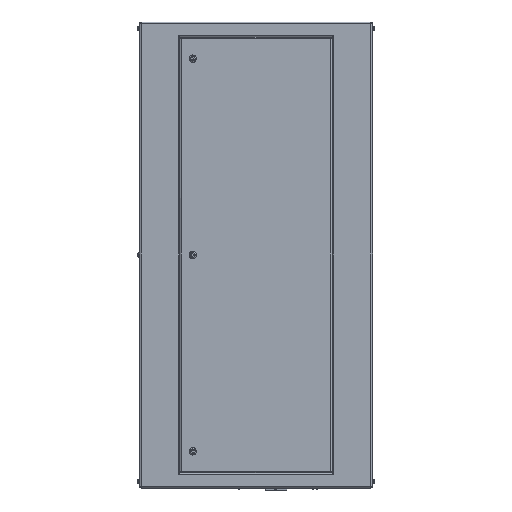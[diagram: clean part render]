
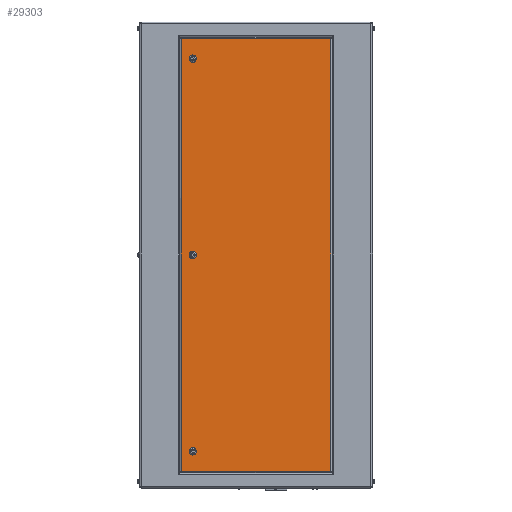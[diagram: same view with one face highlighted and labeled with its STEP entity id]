
A CAD part, left-side view. The second image highlights one B-rep face of the part: STEP entity #29303.
In plain terms, the highlighted planar face has unit normal (-1, 0, 0).
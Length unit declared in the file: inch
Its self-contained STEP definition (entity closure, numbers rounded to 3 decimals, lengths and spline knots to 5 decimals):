
#382 = CIRCLE ( 'NONE', #33704, 0.55 ) ;
#427 = FACE_BOUND ( 'NONE', #19997, .T. ) ;
#569 = CARTESIAN_POINT ( 'NONE',  ( -18.5, 9.5, -28.95 ) ) ;
#573 = DIRECTION ( 'NONE',  ( 1., 0., 0. ) ) ;
#636 = EDGE_CURVE ( 'NONE', #9458, #20902, #4748, .T. ) ;
#978 = DIRECTION ( 'NONE',  ( 0., 0., -1. ) ) ;
#2189 = VERTEX_POINT ( 'NONE', #31323 ) ;
#3245 = FACE_BOUND ( 'NONE', #18630, .T. ) ;
#3290 = CARTESIAN_POINT ( 'NONE',  ( -18.5, 9.5, -0.55 ) ) ;
#3509 = ORIENTED_EDGE ( 'NONE', *, *, #27293, .T. ) ;
#3842 = EDGE_CURVE ( 'NONE', #18754, #11351, #382, .T. ) ;
#4140 = LINE ( 'NONE', #16089, #13037 ) ;
#4211 = CIRCLE ( 'NONE', #10286, 0.55 ) ;
#4299 = CARTESIAN_POINT ( 'NONE',  ( -18.5, 9.5, -30.05 ) ) ;
#4657 = DIRECTION ( 'NONE',  ( 0., 0., -1. ) ) ;
#4748 = LINE ( 'NONE', #36641, #37502 ) ;
#5160 = ORIENTED_EDGE ( 'NONE', *, *, #29507, .T. ) ;
#5450 = EDGE_CURVE ( 'NONE', #9517, #7246, #11499, .T. ) ;
#5730 = AXIS2_PLACEMENT_3D ( 'NONE', #21107, #32687, #4657 ) ;
#6291 = LINE ( 'NONE', #17146, #34287 ) ;
#6294 = CARTESIAN_POINT ( 'NONE',  ( -18.5, 9.5, 30.05 ) ) ;
#7029 = DIRECTION ( 'NONE',  ( 0., 1., 0. ) ) ;
#7246 = VERTEX_POINT ( 'NONE', #4299 ) ;
#7832 = EDGE_LOOP ( 'NONE', ( #12294, #12805 ) ) ;
#8085 = EDGE_CURVE ( 'NONE', #14565, #2189, #21861, .T. ) ;
#8433 = EDGE_CURVE ( 'NONE', #2189, #9458, #4140, .T. ) ;
#8613 = DIRECTION ( 'NONE',  ( 0., 0., 1. ) ) ;
#9436 = AXIS2_PLACEMENT_3D ( 'NONE', #18507, #30896, #36547 ) ;
#9458 = VERTEX_POINT ( 'NONE', #22404 ) ;
#9517 = VERTEX_POINT ( 'NONE', #569 ) ;
#10286 = AXIS2_PLACEMENT_3D ( 'NONE', #21469, #18232, #24143 ) ;
#10681 = VECTOR ( 'NONE', #7029, 39.37008 ) ;
#11351 = VERTEX_POINT ( 'NONE', #3290 ) ;
#11499 = CIRCLE ( 'NONE', #27250, 0.55 ) ;
#11989 = PLANE ( 'NONE',  #5730 ) ;
#12294 = ORIENTED_EDGE ( 'NONE', *, *, #16367, .T. ) ;
#12519 = DIRECTION ( 'NONE',  ( 0., 0., -1. ) ) ;
#12745 = DIRECTION ( 'NONE',  ( 1., 0., 0. ) ) ;
#12805 = ORIENTED_EDGE ( 'NONE', *, *, #3842, .T. ) ;
#13037 = VECTOR ( 'NONE', #12519, 39.37008 ) ;
#13671 = DIRECTION ( 'NONE',  ( 0., 0., -1. ) ) ;
#14565 = VERTEX_POINT ( 'NONE', #18490 ) ;
#15382 = EDGE_CURVE ( 'NONE', #35538, #16923, #26624, .T. ) ;
#16089 = CARTESIAN_POINT ( 'NONE',  ( -18.5, 11.24, -35. ) ) ;
#16268 = CARTESIAN_POINT ( 'NONE',  ( -18.5, 9.5, 28.95 ) ) ;
#16352 = CARTESIAN_POINT ( 'NONE',  ( -18.5, -11.24, -32.49 ) ) ;
#16367 = EDGE_CURVE ( 'NONE', #11351, #18754, #4211, .T. ) ;
#16600 = ORIENTED_EDGE ( 'NONE', *, *, #15382, .T. ) ;
#16923 = VERTEX_POINT ( 'NONE', #6294 ) ;
#17099 = DIRECTION ( 'NONE',  ( 0., 0., -1. ) ) ;
#17146 = CARTESIAN_POINT ( 'NONE',  ( -18.5, -11.24, -35. ) ) ;
#17840 = FACE_OUTER_BOUND ( 'NONE', #28980, .T. ) ;
#18229 = CARTESIAN_POINT ( 'NONE',  ( -18.5, 9.5, 29.5 ) ) ;
#18232 = DIRECTION ( 'NONE',  ( 1., 0., 0. ) ) ;
#18490 = CARTESIAN_POINT ( 'NONE',  ( -18.5, -11.24, 32.49 ) ) ;
#18507 = CARTESIAN_POINT ( 'NONE',  ( -18.5, 9.5, 29.5 ) ) ;
#18630 = EDGE_LOOP ( 'NONE', ( #31174, #28049 ) ) ;
#18754 = VERTEX_POINT ( 'NONE', #34826 ) ;
#19133 = CIRCLE ( 'NONE', #9436, 0.55 ) ;
#19997 = EDGE_LOOP ( 'NONE', ( #16600, #3509 ) ) ;
#20312 = CARTESIAN_POINT ( 'NONE',  ( -18.5, 9.5, -29.5 ) ) ;
#20902 = VERTEX_POINT ( 'NONE', #16352 ) ;
#21053 = DIRECTION ( 'NONE',  ( 0., 0., -1. ) ) ;
#21107 = CARTESIAN_POINT ( 'NONE',  ( -18.5, 17.5, -35. ) ) ;
#21469 = CARTESIAN_POINT ( 'NONE',  ( -18.5, 9.5, 0. ) ) ;
#21668 = DIRECTION ( 'NONE',  ( 1., 0., 0. ) ) ;
#21861 = LINE ( 'NONE', #33439, #10681 ) ;
#22404 = CARTESIAN_POINT ( 'NONE',  ( -18.5, 11.24, -32.49 ) ) ;
#23342 = ORIENTED_EDGE ( 'NONE', *, *, #636, .T. ) ;
#24143 = DIRECTION ( 'NONE',  ( 0., 0., -1. ) ) ;
#25753 = CIRCLE ( 'NONE', #36618, 0.55 ) ;
#26028 = AXIS2_PLACEMENT_3D ( 'NONE', #18229, #12745, #978 ) ;
#26559 = EDGE_CURVE ( 'NONE', #7246, #9517, #25753, .T. ) ;
#26624 = CIRCLE ( 'NONE', #26028, 0.55 ) ;
#27250 = AXIS2_PLACEMENT_3D ( 'NONE', #20312, #573, #21053 ) ;
#27293 = EDGE_CURVE ( 'NONE', #16923, #35538, #19133, .T. ) ;
#28049 = ORIENTED_EDGE ( 'NONE', *, *, #5450, .T. ) ;
#28980 = EDGE_LOOP ( 'NONE', ( #23342, #5160, #34703, #31660 ) ) ;
#29303 = ADVANCED_FACE ( 'NONE', ( #3245, #35501, #427, #17840 ), #11989, .F. ) ;
#29507 = EDGE_CURVE ( 'NONE', #20902, #14565, #6291, .T. ) ;
#30896 = DIRECTION ( 'NONE',  ( 1., 0., 0. ) ) ;
#31174 = ORIENTED_EDGE ( 'NONE', *, *, #26559, .T. ) ;
#31323 = CARTESIAN_POINT ( 'NONE',  ( -18.5, 11.24, 32.49 ) ) ;
#31660 = ORIENTED_EDGE ( 'NONE', *, *, #8433, .T. ) ;
#31743 = CARTESIAN_POINT ( 'NONE',  ( -18.5, 9.5, 0. ) ) ;
#32687 = DIRECTION ( 'NONE',  ( 1., 0., 0. ) ) ;
#33439 = CARTESIAN_POINT ( 'NONE',  ( -18.5, 17.5, 32.49 ) ) ;
#33704 = AXIS2_PLACEMENT_3D ( 'NONE', #31743, #34394, #17099 ) ;
#33818 = DIRECTION ( 'NONE',  ( 0., -1., 0. ) ) ;
#34287 = VECTOR ( 'NONE', #8613, 39.37008 ) ;
#34394 = DIRECTION ( 'NONE',  ( 1., 0., 0. ) ) ;
#34703 = ORIENTED_EDGE ( 'NONE', *, *, #8085, .T. ) ;
#34826 = CARTESIAN_POINT ( 'NONE',  ( -18.5, 9.5, 0.55 ) ) ;
#35501 = FACE_BOUND ( 'NONE', #7832, .T. ) ;
#35538 = VERTEX_POINT ( 'NONE', #16268 ) ;
#35892 = CARTESIAN_POINT ( 'NONE',  ( -18.5, 9.5, -29.5 ) ) ;
#36547 = DIRECTION ( 'NONE',  ( 0., 0., -1. ) ) ;
#36618 = AXIS2_PLACEMENT_3D ( 'NONE', #35892, #21668, #13671 ) ;
#36641 = CARTESIAN_POINT ( 'NONE',  ( -18.5, 17.5, -32.49 ) ) ;
#37502 = VECTOR ( 'NONE', #33818, 39.37008 ) ;
